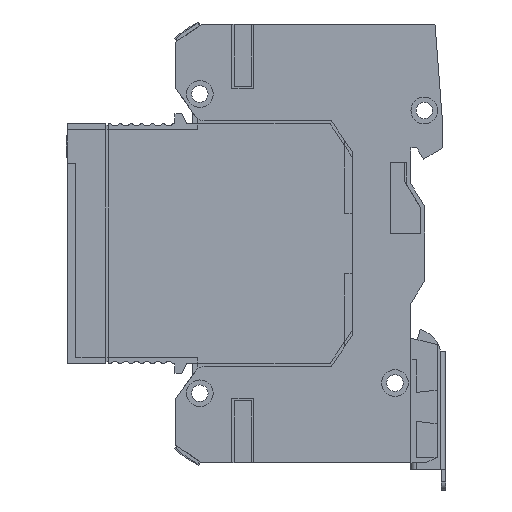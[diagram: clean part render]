
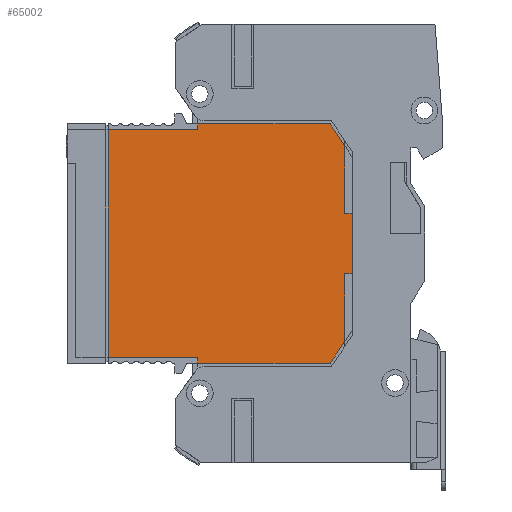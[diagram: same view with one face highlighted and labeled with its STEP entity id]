
A CAD part, left-side view. The second image highlights one B-rep face of the part: STEP entity #65002.
In plain terms, the highlighted planar face has unit normal (-1, 0, 0) as drawn and (0, -1, 0) by its records, which use the part's own axes.
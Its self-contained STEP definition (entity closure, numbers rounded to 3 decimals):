
#1187 = VERTEX_POINT ( 'NONE', #22195 ) ;
#1920 = CARTESIAN_POINT ( 'NONE',  ( 5.65, 0., 26.55 ) ) ;
#2994 = LINE ( 'NONE', #32409, #125275 ) ;
#4659 = VERTEX_POINT ( 'NONE', #84532 ) ;
#5231 = CARTESIAN_POINT ( 'NONE',  ( -22.4, 0., 22.45 ) ) ;
#5300 = ORIENTED_EDGE ( 'NONE', *, *, #78507, .T. ) ;
#6625 = DIRECTION ( 'NONE',  ( 0., 0., -1. ) ) ;
#11275 = DIRECTION ( 'NONE',  ( 1., 0., 0. ) ) ;
#12515 = VERTEX_POINT ( 'NONE', #1920 ) ;
#12906 = CARTESIAN_POINT ( 'NONE',  ( -5.65, 0., 25.15 ) ) ;
#13755 = CARTESIAN_POINT ( 'NONE',  ( -21.3, 0., 25.15 ) ) ;
#16778 = DIRECTION ( 'NONE',  ( 0., 0., 1. ) ) ;
#17016 = ORIENTED_EDGE ( 'NONE', *, *, #77253, .T. ) ;
#17159 = EDGE_CURVE ( 'NONE', #52059, #92483, #29411, .T. ) ;
#18422 = VECTOR ( 'NONE', #20522, 1000. ) ;
#20522 = DIRECTION ( 'NONE',  ( 0., 0., -1. ) ) ;
#22195 = CARTESIAN_POINT ( 'NONE',  ( 18.3, 0., 25.15 ) ) ;
#22558 = ORIENTED_EDGE ( 'NONE', *, *, #40101, .T. ) ;
#24113 = LINE ( 'NONE', #13755, #66493 ) ;
#24254 = DIRECTION ( 'NONE',  ( 1., 0., 0. ) ) ;
#24916 = VERTEX_POINT ( 'NONE', #122719 ) ;
#25090 = EDGE_CURVE ( 'NONE', #92483, #75979, #44838, .T. ) ;
#27089 = CARTESIAN_POINT ( 'NONE',  ( -5.65, 0., 26.55 ) ) ;
#27901 = VERTEX_POINT ( 'NONE', #12906 ) ;
#29411 = LINE ( 'NONE', #31936, #18422 ) ;
#31516 = ORIENTED_EDGE ( 'NONE', *, *, #121743, .F. ) ;
#31918 = EDGE_CURVE ( 'NONE', #24916, #1187, #24113, .T. ) ;
#31936 = CARTESIAN_POINT ( 'NONE',  ( 21.3, 0., -25.15 ) ) ;
#32409 = CARTESIAN_POINT ( 'NONE',  ( -21.3, 0., -2.35 ) ) ;
#33719 = CARTESIAN_POINT ( 'NONE',  ( -21.3, 0., -19.05 ) ) ;
#35062 = VECTOR ( 'NONE', #16778, 1000. ) ;
#37124 = VECTOR ( 'NONE', #81343, 1000. ) ;
#37324 = EDGE_CURVE ( 'NONE', #1187, #52215, #90354, .T. ) ;
#39179 = CARTESIAN_POINT ( 'NONE',  ( -22.4, 0., 22.45 ) ) ;
#40101 = EDGE_CURVE ( 'NONE', #128912, #83706, #2994, .T. ) ;
#43157 = VECTOR ( 'NONE', #49255, 1000. ) ;
#44838 = LINE ( 'NONE', #117912, #76145 ) ;
#44943 = EDGE_CURVE ( 'NONE', #128912, #47785, #64802, .T. ) ;
#45325 = CARTESIAN_POINT ( 'NONE',  ( -5.65, 0., 25.15 ) ) ;
#47785 = VERTEX_POINT ( 'NONE', #5231 ) ;
#49255 = DIRECTION ( 'NONE',  ( 0.835, 0., 0.55 ) ) ;
#49592 = VECTOR ( 'NONE', #123047, 1000. ) ;
#50902 = EDGE_CURVE ( 'NONE', #52215, #87845, #50908, .T. ) ;
#50908 = LINE ( 'NONE', #126688, #64805 ) ;
#52059 = VERTEX_POINT ( 'NONE', #122702 ) ;
#52215 = VERTEX_POINT ( 'NONE', #95046 ) ;
#53006 = CARTESIAN_POINT ( 'NONE',  ( 5.65, 0., 25.15 ) ) ;
#56026 = EDGE_LOOP ( 'NONE', ( #89584, #107302, #60406, #17016, #70105, #100120, #91398, #5300, #117636, #70069, #91715, #31516, #106999, #22558 ) ) ;
#56269 = CARTESIAN_POINT ( 'NONE',  ( -22.4, 0., -2.35 ) ) ;
#56387 = CARTESIAN_POINT ( 'NONE',  ( 22.4, 0., -2.35 ) ) ;
#56409 = DIRECTION ( 'NONE',  ( 0., 0., 1. ) ) ;
#57792 = DIRECTION ( 'NONE',  ( -1., 0., 0. ) ) ;
#60406 = ORIENTED_EDGE ( 'NONE', *, *, #17159, .F. ) ;
#61618 = DIRECTION ( 'NONE',  ( 1., 0., 0. ) ) ;
#64634 = DIRECTION ( 'NONE',  ( 0., 0., 1. ) ) ;
#64802 = LINE ( 'NONE', #56269, #35062 ) ;
#64805 = VECTOR ( 'NONE', #6625, 1000. ) ;
#65002 = ADVANCED_FACE ( 'NONE', ( #111822 ), #103737, .F. ) ;
#66062 = EDGE_CURVE ( 'NONE', #12515, #128337, #94279, .T. ) ;
#66493 = VECTOR ( 'NONE', #24254, 1000. ) ;
#66989 = EDGE_CURVE ( 'NONE', #128337, #27901, #106426, .T. ) ;
#69764 = LINE ( 'NONE', #39179, #43157 ) ;
#70069 = ORIENTED_EDGE ( 'NONE', *, *, #66989, .T. ) ;
#70105 = ORIENTED_EDGE ( 'NONE', *, *, #50902, .F. ) ;
#70311 = VECTOR ( 'NONE', #61618, 1000. ) ;
#71802 = LINE ( 'NONE', #122073, #120397 ) ;
#71990 = EDGE_CURVE ( 'NONE', #75979, #83706, #103550, .T. ) ;
#75979 = VERTEX_POINT ( 'NONE', #33719 ) ;
#76145 = VECTOR ( 'NONE', #128060, 1000. ) ;
#77253 = EDGE_CURVE ( 'NONE', #52059, #87845, #82853, .T. ) ;
#78507 = EDGE_CURVE ( 'NONE', #24916, #12515, #99686, .T. ) ;
#79849 = VECTOR ( 'NONE', #105671, 1000. ) ;
#81343 = DIRECTION ( 'NONE',  ( 0.835, 0., -0.55 ) ) ;
#82853 = LINE ( 'NONE', #90973, #70311 ) ;
#83706 = VERTEX_POINT ( 'NONE', #101755 ) ;
#84532 = CARTESIAN_POINT ( 'NONE',  ( -18.3, 0., 25.15 ) ) ;
#84816 = EDGE_CURVE ( 'NONE', #4659, #27901, #71802, .T. ) ;
#87845 = VERTEX_POINT ( 'NONE', #56387 ) ;
#89584 = ORIENTED_EDGE ( 'NONE', *, *, #71990, .F. ) ;
#89792 = CARTESIAN_POINT ( 'NONE',  ( -22.4, 0., -2.35 ) ) ;
#90354 = LINE ( 'NONE', #90963, #37124 ) ;
#90963 = CARTESIAN_POINT ( 'NONE',  ( 22.4, 0., 22.45 ) ) ;
#90973 = CARTESIAN_POINT ( 'NONE',  ( 21.3, 0., -2.35 ) ) ;
#91398 = ORIENTED_EDGE ( 'NONE', *, *, #31918, .F. ) ;
#91715 = ORIENTED_EDGE ( 'NONE', *, *, #84816, .F. ) ;
#92483 = VERTEX_POINT ( 'NONE', #111239 ) ;
#93124 = CARTESIAN_POINT ( 'NONE',  ( -21.3, 0., -25.15 ) ) ;
#94279 = LINE ( 'NONE', #27089, #122557 ) ;
#95046 = CARTESIAN_POINT ( 'NONE',  ( 22.4, 0., 22.45 ) ) ;
#96651 = DIRECTION ( 'NONE',  ( 0., 1., 0. ) ) ;
#99686 = LINE ( 'NONE', #53006, #49592 ) ;
#100120 = ORIENTED_EDGE ( 'NONE', *, *, #37324, .F. ) ;
#100726 = DIRECTION ( 'NONE',  ( 1., 0., 0. ) ) ;
#101755 = CARTESIAN_POINT ( 'NONE',  ( -21.3, 0., -2.35 ) ) ;
#103550 = LINE ( 'NONE', #93124, #116081 ) ;
#103737 = PLANE ( 'NONE',  #116126 ) ;
#105671 = DIRECTION ( 'NONE',  ( 0., 0., -1. ) ) ;
#106426 = LINE ( 'NONE', #45325, #79849 ) ;
#106999 = ORIENTED_EDGE ( 'NONE', *, *, #44943, .F. ) ;
#107302 = ORIENTED_EDGE ( 'NONE', *, *, #25090, .F. ) ;
#110476 = CARTESIAN_POINT ( 'NONE',  ( -5.65, 0., 26.55 ) ) ;
#111239 = CARTESIAN_POINT ( 'NONE',  ( 21.3, 0., -19.05 ) ) ;
#111822 = FACE_OUTER_BOUND ( 'NONE', #56026, .T. ) ;
#115921 = CARTESIAN_POINT ( 'NONE',  ( 0., 0., 0. ) ) ;
#116081 = VECTOR ( 'NONE', #64634, 1000. ) ;
#116126 = AXIS2_PLACEMENT_3D ( 'NONE', #115921, #96651, #56409 ) ;
#117636 = ORIENTED_EDGE ( 'NONE', *, *, #66062, .T. ) ;
#117912 = CARTESIAN_POINT ( 'NONE',  ( -21.3, 0., -19.05 ) ) ;
#120397 = VECTOR ( 'NONE', #11275, 1000. ) ;
#121743 = EDGE_CURVE ( 'NONE', #47785, #4659, #69764, .T. ) ;
#122073 = CARTESIAN_POINT ( 'NONE',  ( -21.3, 0., 25.15 ) ) ;
#122557 = VECTOR ( 'NONE', #57792, 1000. ) ;
#122702 = CARTESIAN_POINT ( 'NONE',  ( 21.3, 0., -2.35 ) ) ;
#122719 = CARTESIAN_POINT ( 'NONE',  ( 5.65, 0., 25.15 ) ) ;
#123047 = DIRECTION ( 'NONE',  ( 0., 0., 1. ) ) ;
#125275 = VECTOR ( 'NONE', #100726, 1000. ) ;
#126688 = CARTESIAN_POINT ( 'NONE',  ( 22.4, 0., -2.35 ) ) ;
#128060 = DIRECTION ( 'NONE',  ( -1., 0., 0. ) ) ;
#128337 = VERTEX_POINT ( 'NONE', #110476 ) ;
#128912 = VERTEX_POINT ( 'NONE', #89792 ) ;
